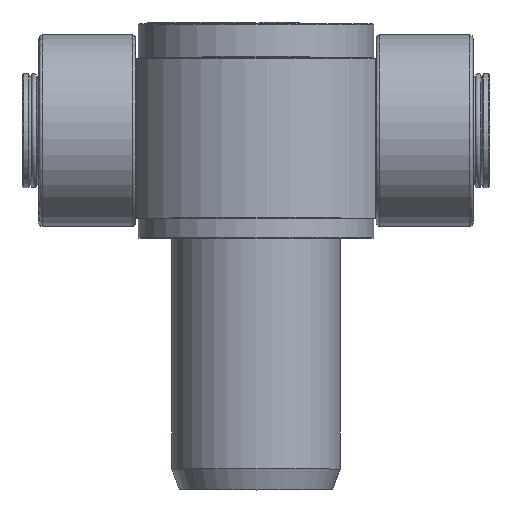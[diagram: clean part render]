
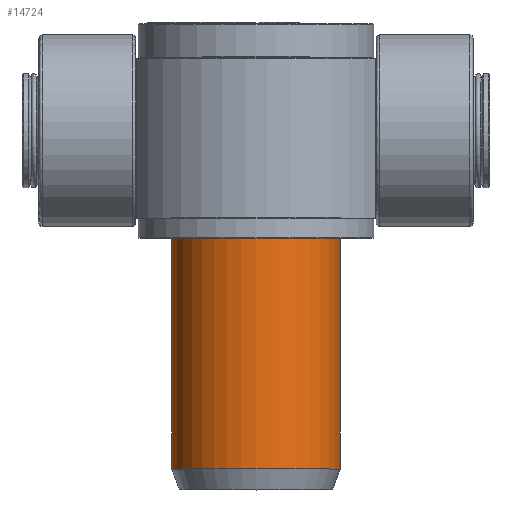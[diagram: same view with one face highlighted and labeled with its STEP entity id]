
A CAD part, top view. The second image highlights one B-rep face of the part: STEP entity #14724.
In plain terms, the highlighted cylindrical face has radius 50 mm (diameter 100 mm), a full revolution.
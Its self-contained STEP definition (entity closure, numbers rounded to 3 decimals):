
#1815=CYLINDRICAL_SURFACE('',#15774,50.);
#2229=FACE_OUTER_BOUND('',#3057,.T.);
#3057=EDGE_LOOP('',(#12127,#12128,#12129,#12130,#12131,#12132));
#3954=LINE('',#27378,#5123);
#5123=VECTOR('',#17581,50.);
#6027=CIRCLE('',#15744,50.);
#6028=CIRCLE('',#15745,50.);
#6042=CIRCLE('',#15772,50.);
#6043=CIRCLE('',#15773,50.);
#6831=VERTEX_POINT('',#27295);
#6832=VERTEX_POINT('',#27296);
#6851=VERTEX_POINT('',#27372);
#6852=VERTEX_POINT('',#27374);
#8699=EDGE_CURVE('',#6831,#6832,#6027,.T.);
#8700=EDGE_CURVE('',#6832,#6831,#6028,.T.);
#8732=EDGE_CURVE('',#6851,#6852,#6042,.T.);
#8733=EDGE_CURVE('',#6852,#6851,#6043,.T.);
#8734=EDGE_CURVE('',#6852,#6832,#3954,.T.);
#12127=ORIENTED_EDGE('',*,*,#8732,.F.);
#12128=ORIENTED_EDGE('',*,*,#8733,.F.);
#12129=ORIENTED_EDGE('',*,*,#8734,.T.);
#12130=ORIENTED_EDGE('',*,*,#8700,.T.);
#12131=ORIENTED_EDGE('',*,*,#8699,.T.);
#12132=ORIENTED_EDGE('',*,*,#8734,.F.);
#14724=ADVANCED_FACE('',(#2229),#1815,.T.);
#15744=AXIS2_PLACEMENT_3D('',#27297,#17507,#17508);
#15745=AXIS2_PLACEMENT_3D('',#27298,#17509,#17510);
#15772=AXIS2_PLACEMENT_3D('',#27375,#17575,#17576);
#15773=AXIS2_PLACEMENT_3D('',#27376,#17577,#17578);
#15774=AXIS2_PLACEMENT_3D('',#27377,#17579,#17580);
#17507=DIRECTION('center_axis',(0.,0.,-1.));
#17508=DIRECTION('ref_axis',(0.,1.,0.));
#17509=DIRECTION('center_axis',(0.,0.,-1.));
#17510=DIRECTION('ref_axis',(0.,1.,0.));
#17575=DIRECTION('center_axis',(0.,0.,-1.));
#17576=DIRECTION('ref_axis',(0.,-1.,0.));
#17577=DIRECTION('center_axis',(0.,0.,-1.));
#17578=DIRECTION('ref_axis',(0.,-1.,0.));
#17579=DIRECTION('center_axis',(0.,0.,-1.));
#17580=DIRECTION('ref_axis',(0.,1.,0.));
#17581=DIRECTION('',(0.,0.,1.));
#27295=CARTESIAN_POINT('',(0.,50.,-15.));
#27296=CARTESIAN_POINT('',(0.,-50.,-15.));
#27297=CARTESIAN_POINT('Origin',(0.,0.,-15.));
#27298=CARTESIAN_POINT('Origin',(0.,0.,-15.));
#27372=CARTESIAN_POINT('',(0.,50.,-196.636));
#27374=CARTESIAN_POINT('',(0.,-50.,-196.636));
#27375=CARTESIAN_POINT('Origin',(0.,0.,-196.636));
#27376=CARTESIAN_POINT('Origin',(0.,0.,-196.636));
#27377=CARTESIAN_POINT('Origin',(0.,0.,-104.5));
#27378=CARTESIAN_POINT('',(0.,-50.,-104.5));
